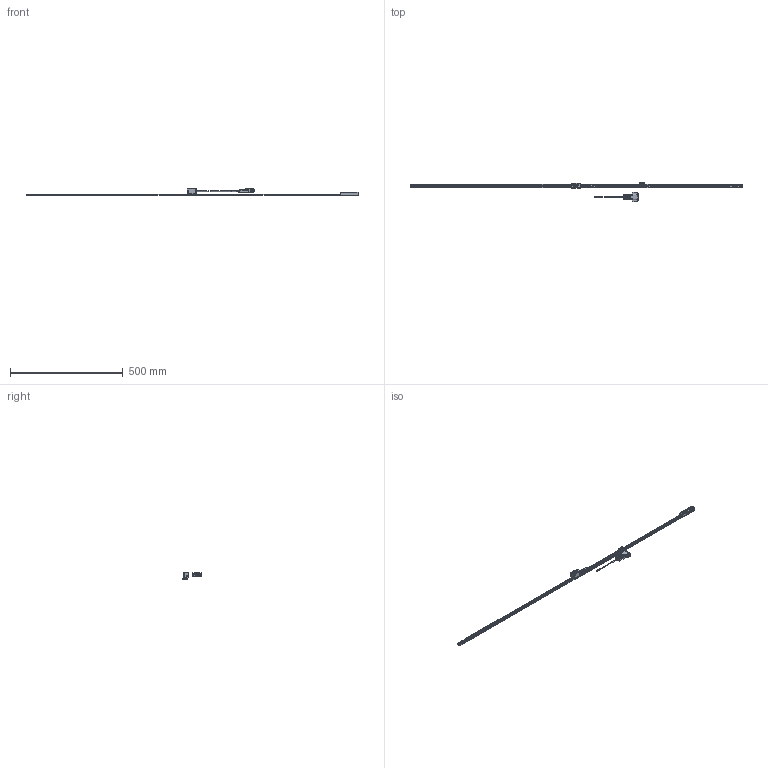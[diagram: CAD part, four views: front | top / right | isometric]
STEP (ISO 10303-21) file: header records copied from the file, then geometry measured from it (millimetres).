
FILE_DESCRIPTION(('Creo Elements/Direct Modeling STEP Export'),'2;1');
FILE_NAME('ST1300-1300D.stp','2018-03-01T12:48:43',(''),(''),'Creo Elements/Direct Modeling STEP processor for AP214 (Solid Model)','Creo Elements/Direct Modeling 18.1B 29-Sep-2012 (C) Parametric Technology GmbH','');
FILE_SCHEMA(('AUTOMOTIVE_DESIGN { 1 0 10303 214 1 1 1 1 }'));
Length unit declared in the file: millimetre
Products named in the file (4): Scale_1300; Connector; Detector_Head; ST1300-1300D
Assembly tree (3 placements, depth 2):
  ST1300-1300D
    Detector_Head
    Connector
    Scale_1300
Bounding box: 1473 x 88.3 x 30.1 mm (x, y, z)
Volume: 142846.3 mm3; surface area: 99434 mm2
Topology: 2 solids, 10 shells, 3782 faces, 10357 edges, 6747 vertices
Faces by surface type: plane 1791, cylinder 1642, extrusion 189, cone 103, torus 30, bspline 23, revolution 4
Entity records: 125727 total; most frequent: CARTESIAN_POINT 29075, ORIENTED_EDGE 20690, DIRECTION 19424, EDGE_CURVE 10341, VERTEX_POINT 6747, AXIS2_PLACEMENT_3D 6527, VECTOR 6364, LINE 6197
